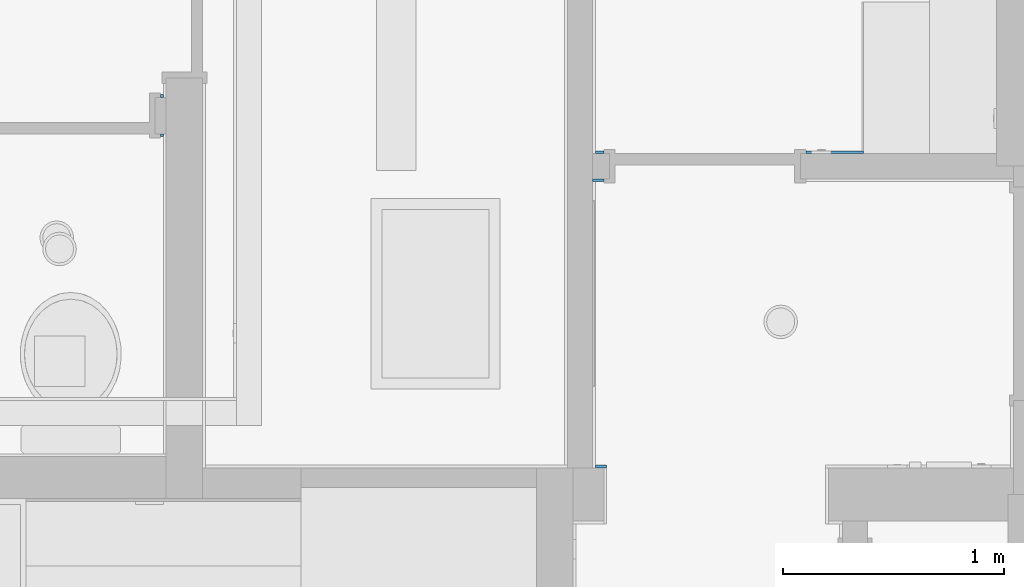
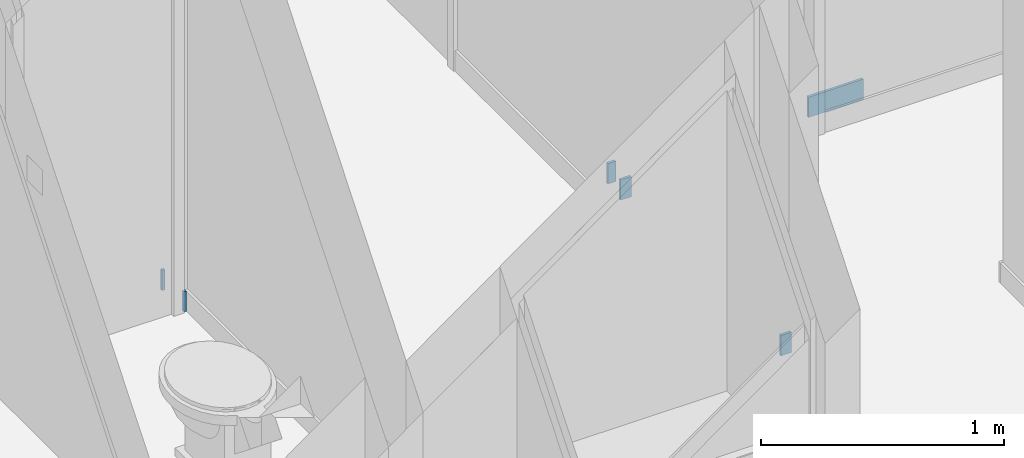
# One storey, part 24 of 60: 6 walls.
"""IFC2X3 building model written with IfcOpenShell, lengths in feet."""

from ifc_helpers import new_model, entity, si_unit, converted_unit, direction, frame, frame_2d, origin, place, context, subcontext, project, spatial, rectangle, extrude, material, layer, layer_set, layer_usage, type_object, element, save


model = new_model("IFC2X3")

# Units and contexts
model_context = context("Model", 3, precision=0.0001, world=origin(), true_north=direction((6.123031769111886e-17, 1.0)))
plan_context = context("Plan", 3, precision=0.0001, world=origin(), true_north=direction((6.123031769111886e-17, 1.0)))
body_context = subcontext(model_context, "Body", "Model", "MODEL_VIEW")
ifc_project = project(units=[converted_unit("LENGTHUNIT", "FOOT", entity("IfcLengthMeasure", 0.3048), si_unit("LENGTHUNIT", "METRE"), dimensions=[1, 0, 0, 0, 0, 0, 0]), converted_unit("AREAUNIT", "SQUARE FOOT", entity("IfcAreaMeasure", 0.09290304), si_unit("AREAUNIT", "SQUARE_METRE"), dimensions=[2, 0, 0, 0, 0, 0, 0]), converted_unit("PLANEANGLEUNIT", "DEGREE", entity("IfcPlaneAngleMeasure", 0.017453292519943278), si_unit("PLANEANGLEUNIT", "RADIAN"), dimensions=[0, 0, 0, 0, 0, 0, 0])], contexts=[model_context, plan_context])

# Site, building, storey
site_placement = place(None, origin())
site = spatial("IfcSite", under=ifc_project, at=site_placement, Name="Default", CompositionType="ELEMENT")
building_placement = place(site_placement, origin())
building = spatial("IfcBuilding", under=site, at=building_placement, CompositionType="ELEMENT")
storey_placement = place(building_placement, origin())
storey = spatial("IfcBuildingStorey", under=building, at=storey_placement, Name="First floor", CompositionType="ELEMENT", Elevation=0.0)

# Walls
ifc_material = material(Name="Default New Material")
ifc_layer = layer(ifc_material, 0.041666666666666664)
ifc_layer_set = layer_set([ifc_layer], Name="Basic Wall:Wall Border_T1")
ifc_layer_usage_1 = layer_usage(ifc_layer_set, "AXIS2", "NEGATIVE", 0.020833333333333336)
wall_type = type_object("IfcWallType", Name="Basic Wall:Wall Border_T1", PredefinedType="STANDARD", material=ifc_layer_set)
wall_1_placement = place(storey_placement, frame((13.91666666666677, 37.68715483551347, 10.666666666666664), z_axis=(0.0, 0.0, 1.0), x_axis=(-1.0, 0.0, 0.0)))
element("IfcWallStandardCase", 1, at=wall_1_placement, inside=storey, type_object=wall_type, material=ifc_layer_usage_1, Name="Basic Wall:Wall Border_T1", ObjectType="Basic Wall:Wall Border_T1", context=body_context, shape_type="SweptSolid", body=[
    extrude(rectangle(XDim=0.1666666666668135, YDim=0.041666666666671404, at=frame_2d((0.08333333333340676, 0.0), x_axis=(-1.0, 0.0))), origin(), (0.0, 0.0, 1.0), 0.3333333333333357),
])
ifc_layer_usage_2 = layer_usage(ifc_layer_set, "AXIS2", "NEGATIVE", 0.020833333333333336)
wall_2_placement = place(storey_placement, frame((13.791666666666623, 33.43715483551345, 10.666666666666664)))
element("IfcWallStandardCase", 2, at=wall_2_placement, inside=storey, type_object=wall_type, material=ifc_layer_usage_2, Name="Basic Wall:Wall Border_T1", ObjectType="Basic Wall:Wall Border_T1", context=body_context, shape_type="SweptSolid", body=[
    extrude(rectangle(XDim=0.1666666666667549, YDim=0.041666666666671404, at=frame_2d((0.08333333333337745, 0.0), x_axis=(-1.0, 0.0))), origin(), (0.0, 0.0, 1.0), 0.3333333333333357),
])
ifc_layer_usage_3 = layer_usage(ifc_layer_set, "AXIS2", "NEGATIVE", 0.020833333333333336)
wall_3_placement = place(storey_placement, frame((7.333333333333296, 38.93715483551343, 10.666666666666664)))
element("IfcWallStandardCase", 3, at=wall_3_placement, inside=storey, type_object=wall_type, material=ifc_layer_usage_3, Name="Basic Wall:Wall Border_T1", ObjectType="Basic Wall:Wall Border_T1", context=body_context, shape_type="SweptSolid", body=[
    extrude(rectangle(XDim=0.04166666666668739, YDim=0.041666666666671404, at=frame_2d((0.020833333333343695, -3.139849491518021e-16), x_axis=(-1.0, 0.0))), origin(), (0.0, 0.0, 1.0), 0.3333333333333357),
])
ifc_layer_usage_4 = layer_usage(ifc_layer_set, "AXIS2", "NEGATIVE", 0.020833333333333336)
wall_4_placement = place(storey_placement, frame((7.37499999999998, 38.35382150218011, 10.666666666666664), z_axis=(0.0, 0.0, 1.0), x_axis=(-1.0, 0.0, 0.0)))
element("IfcWallStandardCase", 4, at=wall_4_placement, inside=storey, type_object=wall_type, material=ifc_layer_usage_4, Name="Basic Wall:Wall Border_T1", ObjectType="Basic Wall:Wall Border_T1", context=body_context, shape_type="SweptSolid", body=[
    extrude(rectangle(XDim=0.0416666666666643, YDim=0.041666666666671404, at=frame_2d((0.02083333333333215, 0.0), x_axis=(-1.0, 0.0))), origin(), (0.0, 0.0, 1.0), 0.3333333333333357),
])
ifc_layer_usage_5 = layer_usage(ifc_layer_set, "AXIS2", "NEGATIVE", 0.020833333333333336)
wall_5_placement = place(storey_placement, frame((13.791666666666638, 38.10382150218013, 10.666666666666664)))
element("IfcWallStandardCase", 5, at=wall_5_placement, inside=storey, type_object=wall_type, material=ifc_layer_usage_5, Name="Basic Wall:Wall Border_T1", ObjectType="Basic Wall:Wall Border_T1", context=body_context, shape_type="SweptSolid", body=[
    extrude(rectangle(XDim=0.12500000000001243, YDim=0.041666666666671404, at=frame_2d((0.06250000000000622, 0.0), x_axis=(-1.0, 0.0))), origin(), (0.0, 0.0, 1.0), 0.3333333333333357),
])
ifc_layer_usage_6 = layer_usage(ifc_layer_set, "AXIS2", "NEGATIVE", 0.020833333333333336)
wall_6_placement = place(storey_placement, frame((16.91666666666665, 38.10382150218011, 10.666666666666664)))
element("IfcWallStandardCase", 6, at=wall_6_placement, inside=storey, type_object=wall_type, material=ifc_layer_usage_6, Name="Basic Wall:Wall Border_T1", ObjectType="Basic Wall:Wall Border_T1", context=body_context, shape_type="SweptSolid", body=[
    extrude(rectangle(XDim=0.8541666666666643, YDim=0.041666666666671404, at=frame_2d((0.42708333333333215, 0.0), x_axis=(-1.0, 0.0))), origin(), (0.0, 0.0, 1.0), 0.3333333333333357),
])

save(model, "model.ifc")
